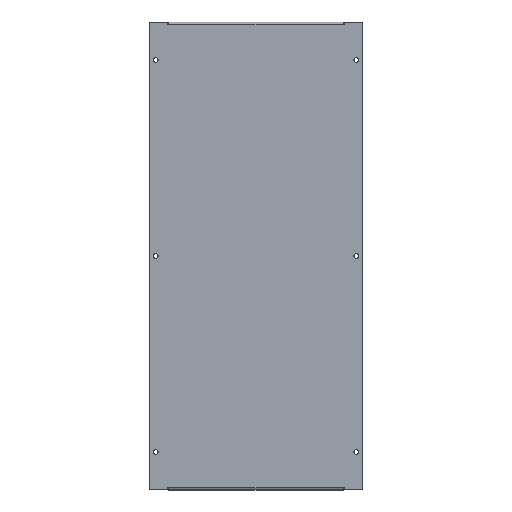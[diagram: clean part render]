
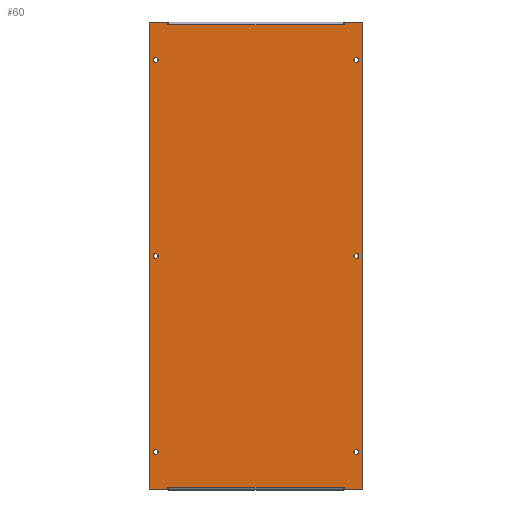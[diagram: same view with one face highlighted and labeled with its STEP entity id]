
A CAD part, top view. The second image highlights one B-rep face of the part: STEP entity #60.
In plain terms, the highlighted planar face has unit normal (0, 0, 1).
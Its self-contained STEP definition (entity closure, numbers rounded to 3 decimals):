
#60=ADVANCED_FACE('',(#166,#168,#170,#172,#174,#176,#178),#180,.F.);
#166=FACE_BOUND('',#167,.T.);
#167=EDGE_LOOP('',(#443,#444,#445,#446,#447,#448,#449,#450,#451,#452,#453,#454,#455,
#456,#457,#458));
#168=FACE_BOUND('',#169,.T.);
#169=EDGE_LOOP('',(#459));
#170=FACE_BOUND('',#171,.T.);
#171=EDGE_LOOP('',(#460));
#172=FACE_BOUND('',#173,.T.);
#173=EDGE_LOOP('',(#461));
#174=FACE_BOUND('',#175,.T.);
#175=EDGE_LOOP('',(#462));
#176=FACE_BOUND('',#177,.T.);
#177=EDGE_LOOP('',(#463));
#178=FACE_BOUND('',#179,.T.);
#179=EDGE_LOOP('',(#464));
#180=PLANE('',#181);
#181=AXIS2_PLACEMENT_3D('',#182,#183,#184);
#182=CARTESIAN_POINT('',(0.,0.,0.));
#183=DIRECTION('',(0.,0.,-1.));
#184=DIRECTION('',(-1.,0.,0.));
#443=ORIENTED_EDGE('',*,*,#621,.F.);
#444=ORIENTED_EDGE('',*,*,#622,.T.);
#445=ORIENTED_EDGE('',*,*,#623,.F.);
#446=ORIENTED_EDGE('',*,*,#624,.F.);
#447=ORIENTED_EDGE('',*,*,#625,.T.);
#448=ORIENTED_EDGE('',*,*,#626,.T.);
#449=ORIENTED_EDGE('',*,*,#627,.T.);
#450=ORIENTED_EDGE('',*,*,#628,.F.);
#451=ORIENTED_EDGE('',*,*,#629,.F.);
#452=ORIENTED_EDGE('',*,*,#630,.T.);
#453=ORIENTED_EDGE('',*,*,#631,.F.);
#454=ORIENTED_EDGE('',*,*,#632,.F.);
#455=ORIENTED_EDGE('',*,*,#633,.T.);
#456=ORIENTED_EDGE('',*,*,#634,.T.);
#457=ORIENTED_EDGE('',*,*,#635,.T.);
#458=ORIENTED_EDGE('',*,*,#636,.F.);
#459=ORIENTED_EDGE('',*,*,#593,.T.);
#460=ORIENTED_EDGE('',*,*,#595,.T.);
#461=ORIENTED_EDGE('',*,*,#597,.T.);
#462=ORIENTED_EDGE('',*,*,#599,.F.);
#463=ORIENTED_EDGE('',*,*,#601,.F.);
#464=ORIENTED_EDGE('',*,*,#603,.F.);
#593=EDGE_CURVE('',#685,#685,#686,.T.);
#595=EDGE_CURVE('',#689,#689,#690,.T.);
#597=EDGE_CURVE('',#693,#693,#694,.T.);
#599=EDGE_CURVE('',#697,#697,#698,.T.);
#601=EDGE_CURVE('',#701,#701,#702,.T.);
#603=EDGE_CURVE('',#705,#705,#706,.T.);
#621=EDGE_CURVE('',#741,#742,#743,.T.);
#622=EDGE_CURVE('',#741,#744,#745,.T.);
#623=EDGE_CURVE('',#746,#744,#747,.T.);
#624=EDGE_CURVE('',#748,#746,#749,.T.);
#625=EDGE_CURVE('',#748,#750,#751,.T.);
#626=EDGE_CURVE('',#750,#752,#753,.T.);
#627=EDGE_CURVE('',#752,#754,#755,.T.);
#628=EDGE_CURVE('',#756,#754,#757,.T.);
#629=EDGE_CURVE('',#758,#756,#759,.T.);
#630=EDGE_CURVE('',#758,#760,#761,.T.);
#631=EDGE_CURVE('',#762,#760,#763,.T.);
#632=EDGE_CURVE('',#764,#762,#765,.T.);
#633=EDGE_CURVE('',#764,#766,#767,.T.);
#634=EDGE_CURVE('',#766,#768,#769,.T.);
#635=EDGE_CURVE('',#768,#770,#771,.T.);
#636=EDGE_CURVE('',#742,#770,#772,.T.);
#685=VERTEX_POINT('',#837);
#686=CIRCLE('',#838,3.15);
#689=VERTEX_POINT('',#847);
#690=CIRCLE('',#848,3.15);
#693=VERTEX_POINT('',#857);
#694=CIRCLE('',#858,3.15);
#697=VERTEX_POINT('',#867);
#698=CIRCLE('',#868,3.15);
#701=VERTEX_POINT('',#877);
#702=CIRCLE('',#878,3.15);
#705=VERTEX_POINT('',#887);
#706=CIRCLE('',#888,3.15);
#741=VERTEX_POINT('',#961);
#742=VERTEX_POINT('',#962);
#743=LINE('',#963,#964);
#744=VERTEX_POINT('',#966);
#745=LINE('',#967,#968);
#746=VERTEX_POINT('',#970);
#747=LINE('',#971,#972);
#748=VERTEX_POINT('',#974);
#749=LINE('',#975,#976);
#750=VERTEX_POINT('',#978);
#751=LINE('',#979,#980);
#752=VERTEX_POINT('',#982);
#753=LINE('',#983,#984);
#754=VERTEX_POINT('',#986);
#755=LINE('',#987,#988);
#756=VERTEX_POINT('',#990);
#757=LINE('',#991,#992);
#758=VERTEX_POINT('',#994);
#759=LINE('',#995,#996);
#760=VERTEX_POINT('',#998);
#761=LINE('',#999,#1000);
#762=VERTEX_POINT('',#1002);
#763=LINE('',#1003,#1004);
#764=VERTEX_POINT('',#1006);
#765=LINE('',#1007,#1008);
#766=VERTEX_POINT('',#1010);
#767=LINE('',#1011,#1012);
#768=VERTEX_POINT('',#1014);
#769=LINE('',#1015,#1016);
#770=VERTEX_POINT('',#1018);
#771=LINE('',#1019,#1020);
#772=LINE('',#1022,#1023);
#837=CARTESIAN_POINT('',(131.15,250.,0.));
#838=AXIS2_PLACEMENT_3D('',#839,#840,#841);
#839=CARTESIAN_POINT('',(128.,250.,0.));
#840=DIRECTION('',(0.,0.,-1.));
#841=DIRECTION('',(1.,0.,0.));
#847=CARTESIAN_POINT('',(131.15,-250.,0.));
#848=AXIS2_PLACEMENT_3D('',#849,#850,#851);
#849=CARTESIAN_POINT('',(128.,-250.,0.));
#850=DIRECTION('',(0.,0.,-1.));
#851=DIRECTION('',(1.,0.,0.));
#857=CARTESIAN_POINT('',(131.15,0.,0.));
#858=AXIS2_PLACEMENT_3D('',#859,#860,#861);
#859=CARTESIAN_POINT('',(128.,0.,0.));
#860=DIRECTION('',(0.,0.,-1.));
#861=DIRECTION('',(1.,0.,0.));
#867=CARTESIAN_POINT('',(-124.85,250.,0.));
#868=AXIS2_PLACEMENT_3D('',#869,#870,#871);
#869=CARTESIAN_POINT('',(-128.,250.,0.));
#870=DIRECTION('',(0.,0.,1.));
#871=DIRECTION('',(-1.,0.,0.));
#877=CARTESIAN_POINT('',(-124.85,-250.,0.));
#878=AXIS2_PLACEMENT_3D('',#879,#880,#881);
#879=CARTESIAN_POINT('',(-128.,-250.,0.));
#880=DIRECTION('',(0.,0.,1.));
#881=DIRECTION('',(-1.,0.,0.));
#887=CARTESIAN_POINT('',(-124.85,0.,0.));
#888=AXIS2_PLACEMENT_3D('',#889,#890,#891);
#889=CARTESIAN_POINT('',(-128.,0.,0.));
#890=DIRECTION('',(0.,0.,1.));
#891=DIRECTION('',(-1.,0.,0.));
#961=CARTESIAN_POINT('',(111.,295.3,0.));
#962=CARTESIAN_POINT('',(113.,295.3,0.));
#963=CARTESIAN_POINT('',(111.,295.3,0.));
#964=VECTOR('',#965,1.);
#965=DIRECTION('',(1.,0.,0.));
#966=CARTESIAN_POINT('',(-111.,295.3,0.));
#967=CARTESIAN_POINT('',(111.,295.3,0.));
#968=VECTOR('',#969,1.);
#969=DIRECTION('',(-1.,0.,0.));
#970=CARTESIAN_POINT('',(-113.,295.3,0.));
#971=CARTESIAN_POINT('',(-113.,295.3,0.));
#972=VECTOR('',#973,1.);
#973=DIRECTION('',(1.,0.,0.));
#974=CARTESIAN_POINT('',(-113.,298.5,0.));
#975=CARTESIAN_POINT('',(-113.,298.5,0.));
#976=VECTOR('',#977,1.);
#977=DIRECTION('',(0.,-1.,0.));
#978=CARTESIAN_POINT('',(-136.,298.5,0.));
#979=CARTESIAN_POINT('',(-113.,298.5,0.));
#980=VECTOR('',#981,1.);
#981=DIRECTION('',(-1.,0.,0.));
#982=CARTESIAN_POINT('',(-136.,-298.5,0.));
#983=CARTESIAN_POINT('',(-136.,298.5,0.));
#984=VECTOR('',#985,1.);
#985=DIRECTION('',(0.,-1.,0.));
#986=CARTESIAN_POINT('',(-113.,-298.5,0.));
#987=CARTESIAN_POINT('',(-136.,-298.5,0.));
#988=VECTOR('',#989,1.);
#989=DIRECTION('',(1.,0.,0.));
#990=CARTESIAN_POINT('',(-113.,-295.3,0.));
#991=CARTESIAN_POINT('',(-113.,-295.3,0.));
#992=VECTOR('',#993,1.);
#993=DIRECTION('',(0.,-1.,0.));
#994=CARTESIAN_POINT('',(-111.,-295.3,0.));
#995=CARTESIAN_POINT('',(-111.,-295.3,0.));
#996=VECTOR('',#997,1.);
#997=DIRECTION('',(-1.,0.,0.));
#998=CARTESIAN_POINT('',(111.,-295.3,0.));
#999=CARTESIAN_POINT('',(-111.,-295.3,0.));
#1000=VECTOR('',#1001,1.);
#1001=DIRECTION('',(1.,0.,0.));
#1002=CARTESIAN_POINT('',(113.,-295.3,0.));
#1003=CARTESIAN_POINT('',(113.,-295.3,0.));
#1004=VECTOR('',#1005,1.);
#1005=DIRECTION('',(-1.,0.,0.));
#1006=CARTESIAN_POINT('',(113.,-298.5,0.));
#1007=CARTESIAN_POINT('',(113.,-298.5,0.));
#1008=VECTOR('',#1009,1.);
#1009=DIRECTION('',(0.,1.,0.));
#1010=CARTESIAN_POINT('',(136.,-298.5,0.));
#1011=CARTESIAN_POINT('',(113.,-298.5,0.));
#1012=VECTOR('',#1013,1.);
#1013=DIRECTION('',(1.,0.,0.));
#1014=CARTESIAN_POINT('',(136.,298.5,0.));
#1015=CARTESIAN_POINT('',(136.,-298.5,0.));
#1016=VECTOR('',#1017,1.);
#1017=DIRECTION('',(0.,1.,0.));
#1018=CARTESIAN_POINT('',(113.,298.5,0.));
#1019=CARTESIAN_POINT('',(136.,298.5,0.));
#1020=VECTOR('',#1021,1.);
#1021=DIRECTION('',(-1.,0.,0.));
#1022=CARTESIAN_POINT('',(113.,295.3,0.));
#1023=VECTOR('',#1024,1.);
#1024=DIRECTION('',(0.,1.,0.));
